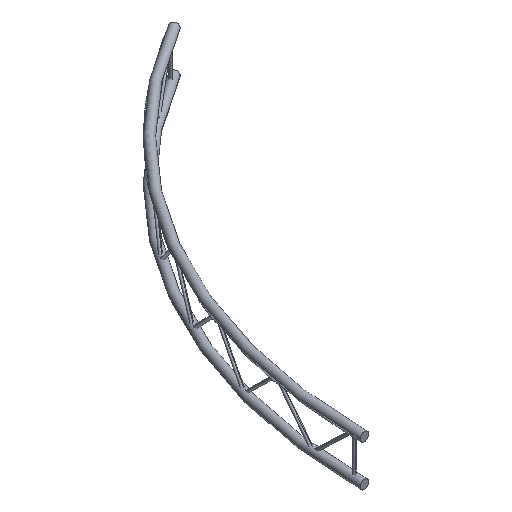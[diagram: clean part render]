
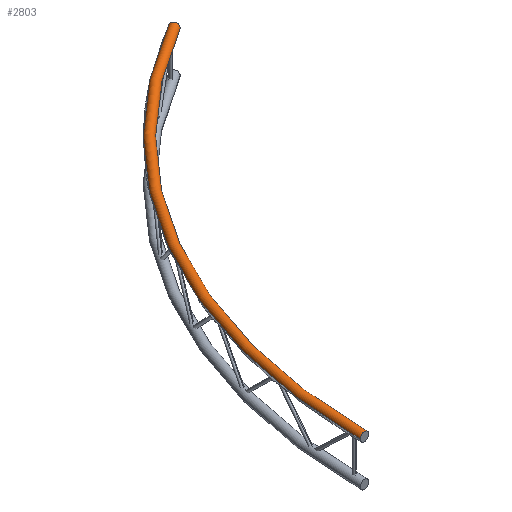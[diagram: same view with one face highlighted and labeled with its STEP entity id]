
A CAD part, isometric view. The second image highlights one B-rep face of the part: STEP entity #2803.
In plain terms, the highlighted toroidal (fillet/blend) face has major radius 2975 mm and minor radius 25 mm.
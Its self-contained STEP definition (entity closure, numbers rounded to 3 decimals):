
#2176 = CARTESIAN_POINT ( 'NONE',  ( -1500., 2598.076, 0. ) ) ;
#2448 = DIRECTION ( 'NONE',  ( 0., 0., 1. ) ) ;
#2449 = DIRECTION ( 'NONE',  ( 0., 1., 0. ) ) ;
#2450 = CARTESIAN_POINT ( 'NONE',  ( -2975., 0., 0. ) ) ;
#2451 = AXIS2_PLACEMENT_3D ( 'NONE', #2450, #2449, #2448 ) ;
#2452 = CIRCLE ( 'NONE', #2451, 25. ) ;
#2454 = CARTESIAN_POINT ( 'NONE',  ( -2950., 0., 0. ) ) ;
#2455 = CARTESIAN_POINT ( 'NONE',  ( -1475., 2554.775, 0. ) ) ;
#2456 = CARTESIAN_POINT ( 'NONE',  ( -3000., 0., 0. ) ) ;
#2457 = DIRECTION ( 'NONE',  ( 1., 0., 0. ) ) ;
#2458 = DIRECTION ( 'NONE',  ( 0., 0., 1. ) ) ;
#2459 = CARTESIAN_POINT ( 'NONE',  ( 0., 0., 0. ) ) ;
#2460 = AXIS2_PLACEMENT_3D ( 'NONE', #2459, #2458, #2457 ) ;
#2461 = CIRCLE ( 'NONE', #2460, 3000. ) ;
#2462 = DIRECTION ( 'NONE',  ( 0., 0., 1. ) ) ;
#2463 = DIRECTION ( 'NONE',  ( 0.866, 0.5, 0. ) ) ;
#2464 = CARTESIAN_POINT ( 'NONE',  ( -1487.5, 2576.426, 0. ) ) ;
#2465 = AXIS2_PLACEMENT_3D ( 'NONE', #2464, #2463, #2462 ) ;
#2466 = DIRECTION ( 'NONE',  ( 1., 0., 0. ) ) ;
#2467 = DIRECTION ( 'NONE',  ( 0., 0., 1. ) ) ;
#2468 = CARTESIAN_POINT ( 'NONE',  ( 0., 0., 0. ) ) ;
#2469 = AXIS2_PLACEMENT_3D ( 'NONE', #2468, #2467, #2466 ) ;
#2470 = CIRCLE ( 'NONE', #2465, 25. ) ;
#2471 = TOROIDAL_SURFACE ( 'NONE', #2469, 2975., 25. ) ;
#2477 = FACE_OUTER_BOUND ( 'NONE', #2793, .T. ) ;
#2570 = DIRECTION ( 'NONE',  ( 1., 0., 0. ) ) ;
#2571 = DIRECTION ( 'NONE',  ( 0., 0., 1. ) ) ;
#2572 = CARTESIAN_POINT ( 'NONE',  ( 0., 0., 0. ) ) ;
#2573 = AXIS2_PLACEMENT_3D ( 'NONE', #2572, #2571, #2570 ) ;
#2574 = CIRCLE ( 'NONE', #2573, 2950. ) ;
#2737 = ORIENTED_EDGE ( 'NONE', *, *, #2804, .F. ) ;
#2738 = VERTEX_POINT ( 'NONE', #2176 ) ;
#2783 = ORIENTED_EDGE ( 'NONE', *, *, #2784, .F. ) ;
#2784 = EDGE_CURVE ( 'NONE', #2807, #2809, #2574, .T. ) ;
#2793 = EDGE_LOOP ( 'NONE', ( #2737, #2808, #2810, #2783 ) ) ;
#2803 = ADVANCED_FACE ( 'NONE', ( #2477 ), #2471, .T. ) ;
#2804 = EDGE_CURVE ( 'NONE', #2738, #2807, #2470, .T. ) ;
#2805 = EDGE_CURVE ( 'NONE', #2738, #2806, #2461, .T. ) ;
#2806 = VERTEX_POINT ( 'NONE', #2456 ) ;
#2807 = VERTEX_POINT ( 'NONE', #2455 ) ;
#2808 = ORIENTED_EDGE ( 'NONE', *, *, #2805, .T. ) ;
#2809 = VERTEX_POINT ( 'NONE', #2454 ) ;
#2810 = ORIENTED_EDGE ( 'NONE', *, *, #2811, .T. ) ;
#2811 = EDGE_CURVE ( 'NONE', #2806, #2809, #2452, .T. ) ;
